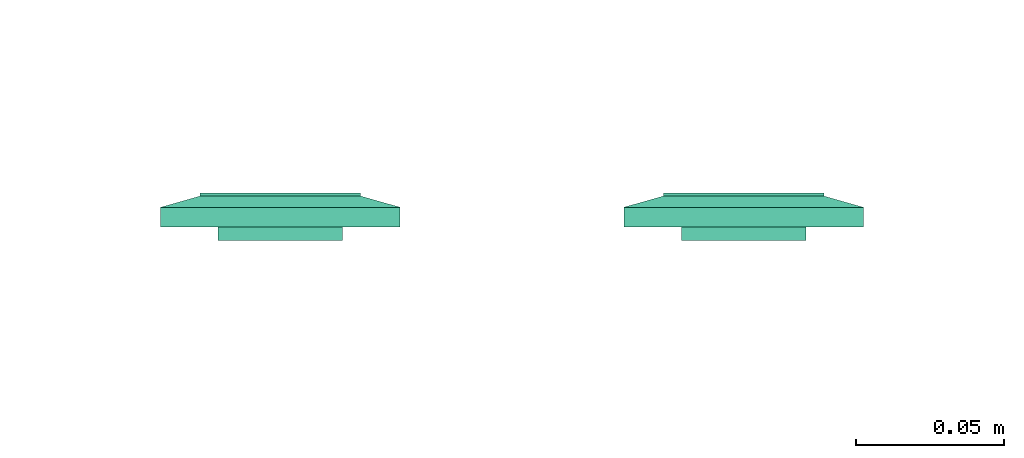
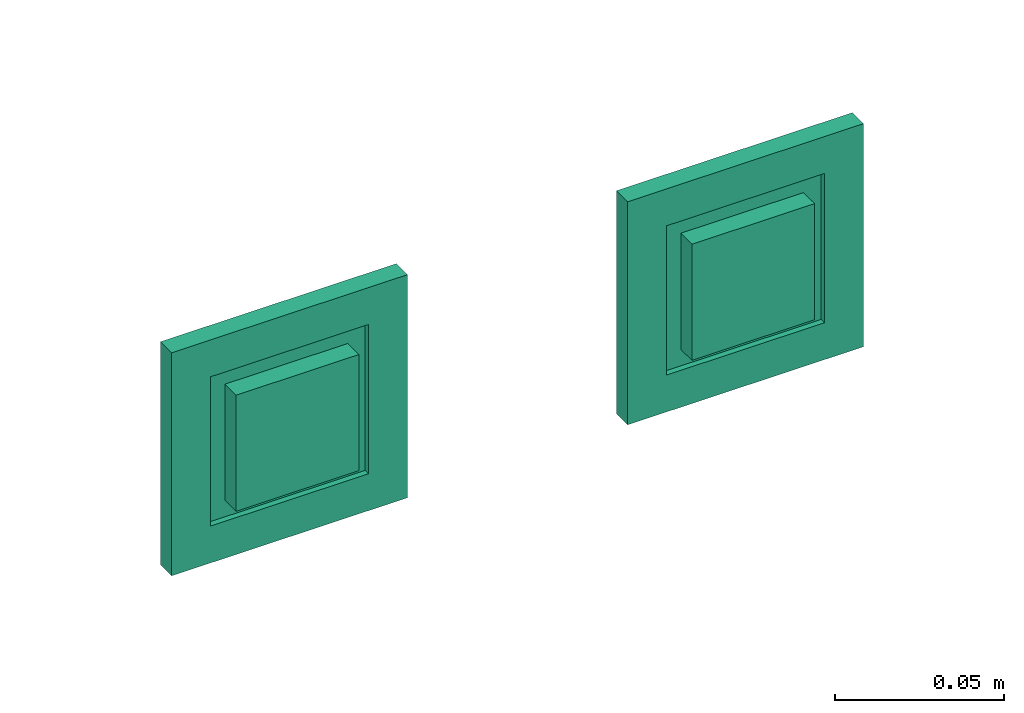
# One storey, part 72 of 146: 2 flow terminals.
"""IFC2X3 building model written with IfcOpenShell, lengths in metres."""

from ifc_helpers import new_model, entity, si_unit, converted_unit, derived_unit, direction, frame, origin, place, context, subcontext, project, spatial, faceted_brep, source, transform, mapped, type_object, type_shapes, element, save


model = new_model("IFC2X3")

# Units and contexts
model_context = context("Model", 3, precision=1e-05, world=origin(), true_north=direction((6.12303176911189e-17, 1.0)))
body_context = subcontext(model_context, "Body", "Model", "MODEL_VIEW")
ifc_project = project(units=[si_unit("LENGTHUNIT", "METRE"), si_unit("AREAUNIT", "SQUARE_METRE"), si_unit("VOLUMEUNIT", "CUBIC_METRE"), converted_unit("PLANEANGLEUNIT", "DEGREE", entity("IfcRatioMeasure", 0.0174532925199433), si_unit("PLANEANGLEUNIT", "RADIAN"), dimensions=[0, 0, 0, 0, 0, 0, 0]), si_unit("MASSUNIT", "GRAM", prefix="KILO"), derived_unit("MASSDENSITYUNIT", [(si_unit("MASSUNIT", "GRAM", prefix="KILO"), 1), (si_unit("LENGTHUNIT", "METRE"), -3)]), si_unit("TIMEUNIT", "SECOND"), si_unit("FREQUENCYUNIT", "HERTZ"), si_unit("THERMODYNAMICTEMPERATUREUNIT", "DEGREE_CELSIUS"), derived_unit("THERMALTRANSMITTANCEUNIT", [(si_unit("MASSUNIT", "GRAM", prefix="KILO"), 1), (si_unit("THERMODYNAMICTEMPERATUREUNIT", "KELVIN"), -1), (si_unit("TIMEUNIT", "SECOND"), -3)]), derived_unit("VOLUMETRICFLOWRATEUNIT", [(si_unit("LENGTHUNIT", "METRE"), 3), (si_unit("TIMEUNIT", "SECOND"), -1)]), si_unit("ELECTRICCURRENTUNIT", "AMPERE"), si_unit("ELECTRICVOLTAGEUNIT", "VOLT"), si_unit("POWERUNIT", "WATT"), si_unit("FORCEUNIT", "NEWTON"), si_unit("ILLUMINANCEUNIT", "LUX"), si_unit("LUMINOUSFLUXUNIT", "LUMEN"), si_unit("LUMINOUSINTENSITYUNIT", "CANDELA"), derived_unit("USERDEFINED", [(si_unit("MASSUNIT", "GRAM", prefix="KILO"), -1), (si_unit("LENGTHUNIT", "METRE"), -2), (si_unit("TIMEUNIT", "SECOND"), 3), (si_unit("LUMINOUSFLUXUNIT", "LUMEN"), 1)]), derived_unit("LINEARVELOCITYUNIT", [(si_unit("LENGTHUNIT", "METRE"), 1), (si_unit("TIMEUNIT", "SECOND"), -1)]), si_unit("PRESSUREUNIT", "PASCAL"), derived_unit("USERDEFINED", [(si_unit("LENGTHUNIT", "METRE"), -2), (si_unit("MASSUNIT", "GRAM", prefix="KILO"), 1), (si_unit("TIMEUNIT", "SECOND"), -2)])], contexts=[model_context])

# Site, building, storey
site_placement = place(None, origin())
site = spatial("IfcSite", under=ifc_project, at=site_placement, Name="Default", CompositionType="ELEMENT")
building_placement = place(site_placement, origin())
building = spatial("IfcBuilding", under=site, at=building_placement, CompositionType="ELEMENT")
storey_placement = place(building_placement, origin())
storey = spatial("IfcBuildingStorey", under=building, at=storey_placement, Name="S01", CompositionType="ELEMENT", Elevation=0.0)

# Flow terminals
electric_appliance_type = type_object("IfcElectricApplianceType", Name="RJ45 IP20", PredefinedType="NOTDEFINED")
shared_shape = source(origin(), body_context, "Body", "Brep", [
    faceted_brep([(0.00200000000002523, 0.0, 0.00799999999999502), (0.00400000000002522, 0.0, 0.00799999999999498), (0.00500000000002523, 0.00199999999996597, 0.00799999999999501), (0.0110000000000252, 0.00199999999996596, 0.00799999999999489), (0.0120000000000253, 0.0, 0.00799999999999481), (0.0140000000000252, 0.0, 0.00799999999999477), (0.0140000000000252, 0.00399999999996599, 0.00799999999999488), (0.00200000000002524, 0.00399999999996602, 0.00799999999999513), (0.00200000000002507, 0.0, 0.0), (0.00200000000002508, 0.00399999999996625, 0.0), (0.0140000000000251, 0.00399999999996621, 0.0), (0.0140000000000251, 0.0, 0.0), (0.0120000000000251, 0.0, 0.0), (0.0110000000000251, 0.00199999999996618, 0.0), (0.00500000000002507, 0.0019999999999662, 0.0), (0.00400000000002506, 0.0, 0.0)], [[[0, 1, 2, 3, 4, 5, 6, 7]], [[8, 9, 10, 11, 12, 13, 14, 15]], [[1, 0, 8, 15]], [[2, 1, 15, 14]], [[3, 2, 14, 13]], [[4, 3, 13, 12]], [[5, 4, 12, 11]], [[6, 5, 11, 10]], [[7, 6, 10, 9]], [[0, 7, 9, 8]]]),
    faceted_brep([(-0.0139999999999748, 0.0, 0.00799999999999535), (-0.0119999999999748, 0.0, 0.00799999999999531), (-0.0109999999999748, 0.00199999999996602, 0.00799999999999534), (-0.00499999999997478, 0.00199999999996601, 0.00799999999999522), (-0.0039999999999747, 0.0, 0.00799999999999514), (-0.00199999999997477, 0.0, 0.0079999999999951), (-0.00199999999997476, 0.00399999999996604, 0.00799999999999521), (-0.0139999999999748, 0.00399999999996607, 0.00799999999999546), (-0.0139999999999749, 0.0, 0.0), (-0.0139999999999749, 0.00399999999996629, 0.0), (-0.00199999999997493, 0.00399999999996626, 0.0), (-0.00199999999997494, 0.0, 0.0), (-0.00399999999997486, 0.0, 0.0), (-0.00499999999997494, 0.00199999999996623, 0.0), (-0.0109999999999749, 0.00199999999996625, 0.0), (-0.0119999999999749, 0.0, 0.0)], [[[0, 1, 2, 3, 4, 5, 6, 7]], [[8, 9, 10, 11, 12, 13, 14, 15]], [[1, 0, 8, 15]], [[2, 1, 15, 14]], [[3, 2, 14, 13]], [[4, 3, 13, 12]], [[5, 4, 12, 11]], [[6, 5, 11, 10]], [[7, 6, 10, 9]], [[0, 7, 9, 8]]]),
    faceted_brep([(0.0140000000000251, 0.00399999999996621, 0.0), (0.00200000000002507, 0.00399999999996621, 0.0), (0.00200000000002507, -0.00350000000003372, 0.0), (0.0140000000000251, -0.00350000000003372, 0.0), (0.0140000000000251, 0.00399999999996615, 0.00199999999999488), (0.00200000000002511, 0.00399999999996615, 0.00199999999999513), (0.00200000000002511, -0.00393859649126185, 0.00199999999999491), (0.0140000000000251, -0.00393859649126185, 0.00199999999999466), (0.0210000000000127, 0.0209999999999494, 0.00199999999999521), (-0.0209999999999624, 0.0209999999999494, 0.00199999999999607), (-0.0209999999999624, -0.0210000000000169, 0.00199999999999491), (0.0210000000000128, -0.0210000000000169, 0.00199999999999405), (-0.0139999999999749, 0.0039999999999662, 0.00199999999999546), (-0.0019999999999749, 0.0039999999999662, 0.00199999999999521), (-0.00199999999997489, -0.0039385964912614, 0.00199999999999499), (-0.0139999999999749, -0.00393859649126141, 0.00199999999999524), (0.0210000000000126, 0.0209999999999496, -0.00460000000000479), (0.0210000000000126, -0.0210000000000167, -0.00460000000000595), (-0.0209999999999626, -0.0210000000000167, -0.00460000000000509), (-0.0209999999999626, 0.0209999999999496, -0.00460000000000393), (-0.00199999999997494, 0.00399999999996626, 0.0), (-0.0139999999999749, 0.00399999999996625, 0.0), (-0.0139999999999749, -0.00350000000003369, 0.0), (-0.00199999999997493, -0.00350000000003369, 0.0)], [[[0, 1, 2, 3]], [[1, 0, 4, 5]], [[2, 1, 5, 6]], [[3, 2, 6, 7]], [[0, 3, 7, 4]], [[5, 4, 7, 6], [8, 9, 10, 11], [12, 13, 14, 15]], [[16, 17, 18, 19]], [[9, 8, 16, 19]], [[10, 9, 19, 18]], [[11, 10, 18, 17]], [[8, 11, 17, 16]], [[20, 21, 22, 23]], [[21, 20, 13, 12]], [[22, 21, 12, 15]], [[23, 22, 15, 14]], [[20, 23, 14, 13]]], outer=[[True], [True], [True], [True], [True], [False, True, False], [True], [True], [True], [True], [True], [True], [True], [True], [True], [True]]),
    faceted_brep([(0.0270000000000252, 0.026999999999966, 0.0113999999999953), (-0.0269999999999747, 0.026999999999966, 0.0113999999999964), (-0.0269999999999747, -0.0270000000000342, 0.0113999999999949), (0.0270000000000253, -0.0270000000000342, 0.0113999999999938), (0.0020000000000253, 0.00399999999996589, 0.0113999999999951), (0.0140000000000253, 0.00399999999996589, 0.0113999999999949), (0.0140000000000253, -0.00600000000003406, 0.0113999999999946), (0.0020000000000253, -0.00600000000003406, 0.0113999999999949), (-0.0139999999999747, 0.00399999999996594, 0.0113999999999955), (-0.00199999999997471, 0.00399999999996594, 0.0113999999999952), (-0.00199999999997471, -0.0060000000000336, 0.0113999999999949), (-0.0139999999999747, -0.00600000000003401, 0.0113999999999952), (0.0270000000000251, 0.0269999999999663, 0.00199999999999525), (0.0270000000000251, -0.0270000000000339, 0.00199999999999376), (-0.0269999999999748, -0.0270000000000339, 0.00199999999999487), (-0.0269999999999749, 0.0269999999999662, 0.00199999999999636), (0.0140000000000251, 0.00399999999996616, 0.00199999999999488), (0.00200000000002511, 0.00399999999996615, 0.00199999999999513), (0.00200000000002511, -0.00393859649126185, 0.00199999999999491), (0.0140000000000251, -0.00393859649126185, 0.00199999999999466), (-0.00199999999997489, 0.0039999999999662, 0.00199999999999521), (-0.0139999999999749, 0.0039999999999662, 0.00199999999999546), (-0.0139999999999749, -0.0039385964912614, 0.00199999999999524), (-0.00199999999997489, -0.0039385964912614, 0.00199999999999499)], [[[0, 1, 2, 3], [4, 5, 6, 7], [8, 9, 10, 11]], [[12, 13, 14, 15], [16, 17, 18, 19], [20, 21, 22, 23]], [[1, 0, 12, 15]], [[2, 1, 15, 14]], [[3, 2, 14, 13]], [[0, 3, 13, 12]], [[4, 17, 16, 5]], [[17, 4, 7, 18]], [[18, 7, 6, 19]], [[5, 16, 19, 6]], [[8, 21, 20, 9]], [[21, 8, 11, 22]], [[22, 11, 10, 23]], [[9, 20, 23, 10]]]),
    faceted_brep([(0.027000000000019, 0.0269999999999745, 0.00659999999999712), (-0.0269999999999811, 0.0269999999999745, 0.00659999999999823), (-0.026999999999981, -0.0270000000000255, 0.00659999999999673), (0.027000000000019, -0.0270000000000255, 0.00659999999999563), (0.040350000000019, 0.0403499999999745, 0.00659999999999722), (0.040350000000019, -0.0403500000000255, 0.00659999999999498), (-0.0403499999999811, -0.0403500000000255, 0.00659999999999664), (-0.0403499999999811, 0.0403499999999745, 0.00659999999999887), (-0.026999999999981, 0.0269999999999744, 0.0103999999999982), (0.027000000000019, 0.0269999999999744, 0.0103999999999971), (-0.026999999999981, -0.0270000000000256, 0.0103999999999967), (0.027000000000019, -0.0270000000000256, 0.0103999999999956)], [[[0, 1, 2, 3], [4, 5, 6, 7]], [[4, 7, 8, 9]], [[7, 6, 10, 8]], [[6, 5, 11, 10]], [[5, 4, 9, 11]], [[0, 9, 8, 1]], [[1, 8, 10, 2]], [[2, 10, 11, 3]], [[9, 0, 3, 11]]], outer=[[False, True], [True], [True], [True], [True], [True], [True], [True], [True]]),
    faceted_brep([(0.040350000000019, 0.0403499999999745, 0.00659999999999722), (-0.0403499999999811, 0.0403499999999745, 0.00659999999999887), (-0.0403499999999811, -0.0403500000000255, 0.00659999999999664), (0.040350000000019, -0.0403500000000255, 0.00659999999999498), (-0.0269999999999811, 0.0269999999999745, 0.00659999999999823), (0.0270000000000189, 0.0269999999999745, 0.00659999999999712), (0.0270000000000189, -0.0270000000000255, 0.00659999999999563), (-0.0269999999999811, -0.0270000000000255, 0.00659999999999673), (0.0403500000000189, 0.0403499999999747, 0.0), (0.0403500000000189, -0.0403500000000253, 0.0), (-0.0403499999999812, -0.0403500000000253, 0.0), (-0.0403499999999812, 0.0403499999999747, 0.0), (0.0270000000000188, 0.0269999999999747, 0.0), (-0.0269999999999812, 0.0269999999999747, 0.0), (-0.0269999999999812, -0.0270000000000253, 0.0), (0.0270000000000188, -0.0270000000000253, 0.0)], [[[0, 1, 2, 3], [4, 5, 6, 7]], [[8, 9, 10, 11], [12, 13, 14, 15]], [[1, 0, 8, 11]], [[2, 1, 11, 10]], [[3, 2, 10, 9]], [[0, 3, 9, 8]], [[12, 5, 4, 13]], [[13, 4, 7, 14]], [[14, 7, 6, 15]], [[5, 12, 15, 6]]]),
])
type_shapes(electric_appliance_type, [shared_shape])
for number, where, z_axis, x_axis in (
    (1, (57.3255677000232, -193.177069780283, 0.320000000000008), (0.0, 1.0, 0.0), (-1.0, 0.0, 0.0)),
    (2, (57.4815677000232, -193.177069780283, 0.320000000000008), (0.0, 1.0, 0.0), (-1.0, 0.0, 0.0)),
):
    element("IfcFlowTerminal", number, at=place(storey_placement, frame(where, z_axis=z_axis, x_axis=x_axis)), inside=storey, type_object=electric_appliance_type, Name="INT_Prise RJ45:RJ45 IP20", ObjectType="INT_Prise RJ45:RJ45 IP20", context=body_context, shape_type="MappedRepresentation", body=[
        mapped(shared_shape, transform((0.0, 0.0, 0.0), scale=1.0)),
    ])

save(model, "model.ifc")
